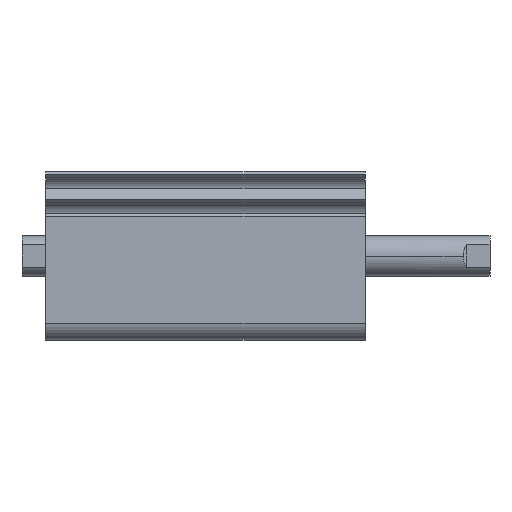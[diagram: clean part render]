
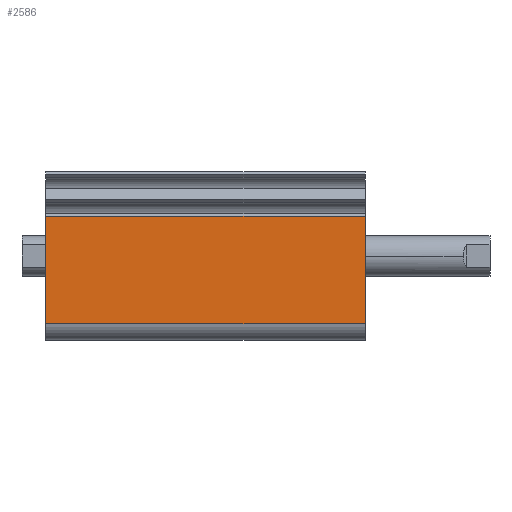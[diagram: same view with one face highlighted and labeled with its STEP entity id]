
A CAD part, top view. The second image highlights one B-rep face of the part: STEP entity #2586.
In plain terms, the highlighted planar face has unit normal (0, 0, 1).
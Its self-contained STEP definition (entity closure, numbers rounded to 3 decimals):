
#94 = DIRECTION ( 'NONE',  ( 0., -1., 0. ) ) ;
#117 = ORIENTED_EDGE ( 'NONE', *, *, #2966, .F. ) ;
#140 = DIRECTION ( 'NONE',  ( 0., 0., -1. ) ) ;
#147 = LINE ( 'NONE', #877, #615 ) ;
#184 = CARTESIAN_POINT ( 'NONE',  ( 0., 5.885, 12.5 ) ) ;
#222 = CARTESIAN_POINT ( 'NONE',  ( 0., 5.885, 12.5 ) ) ;
#428 = PLANE ( 'NONE',  #3175 ) ;
#481 = EDGE_CURVE ( 'NONE', #1343, #1049, #1958, .T. ) ;
#491 = CARTESIAN_POINT ( 'NONE',  ( 47.4, 5.885, 12.5 ) ) ;
#615 = VECTOR ( 'NONE', #94, 1000. ) ;
#850 = LINE ( 'NONE', #2867, #2599 ) ;
#877 = CARTESIAN_POINT ( 'NONE',  ( 47.4, 5.885, 12.5 ) ) ;
#1045 = ORIENTED_EDGE ( 'NONE', *, *, #1465, .T. ) ;
#1049 = VERTEX_POINT ( 'NONE', #184 ) ;
#1111 = EDGE_LOOP ( 'NONE', ( #1045, #3040, #117, #1650 ) ) ;
#1169 = CARTESIAN_POINT ( 'NONE',  ( 0., -10.069, 12.5 ) ) ;
#1248 = DIRECTION ( 'NONE',  ( -1., 0., 0. ) ) ;
#1343 = VERTEX_POINT ( 'NONE', #2177 ) ;
#1465 = EDGE_CURVE ( 'NONE', #1049, #3148, #2002, .T. ) ;
#1494 = CARTESIAN_POINT ( 'NONE',  ( 47.4, -10.069, 12.5 ) ) ;
#1598 = VECTOR ( 'NONE', #1248, 1000. ) ;
#1650 = ORIENTED_EDGE ( 'NONE', *, *, #481, .T. ) ;
#1724 = DIRECTION ( 'NONE',  ( 0., -1., 0. ) ) ;
#1936 = CARTESIAN_POINT ( 'NONE',  ( 47.4, 5.885, 12.5 ) ) ;
#1955 = VERTEX_POINT ( 'NONE', #1494 ) ;
#1958 = LINE ( 'NONE', #491, #1598 ) ;
#2002 = LINE ( 'NONE', #222, #3171 ) ;
#2177 = CARTESIAN_POINT ( 'NONE',  ( 47.4, 5.885, 12.5 ) ) ;
#2370 = DIRECTION ( 'NONE',  ( -1., 0., 0. ) ) ;
#2544 = EDGE_CURVE ( 'NONE', #1955, #3148, #850, .T. ) ;
#2586 = ADVANCED_FACE ( 'NONE', ( #2898 ), #428, .F. ) ;
#2599 = VECTOR ( 'NONE', #2370, 1000. ) ;
#2693 = DIRECTION ( 'NONE',  ( 0., -1., 0. ) ) ;
#2867 = CARTESIAN_POINT ( 'NONE',  ( 47.4, -10.069, 12.5 ) ) ;
#2898 = FACE_OUTER_BOUND ( 'NONE', #1111, .T. ) ;
#2966 = EDGE_CURVE ( 'NONE', #1343, #1955, #147, .T. ) ;
#3040 = ORIENTED_EDGE ( 'NONE', *, *, #2544, .F. ) ;
#3148 = VERTEX_POINT ( 'NONE', #1169 ) ;
#3171 = VECTOR ( 'NONE', #1724, 1000. ) ;
#3175 = AXIS2_PLACEMENT_3D ( 'NONE', #1936, #140, #2693 ) ;
